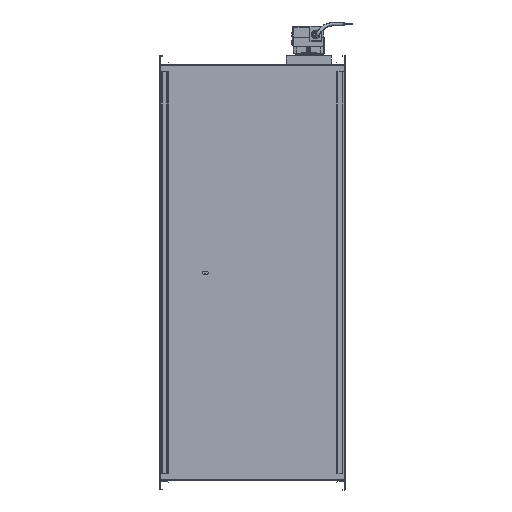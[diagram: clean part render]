
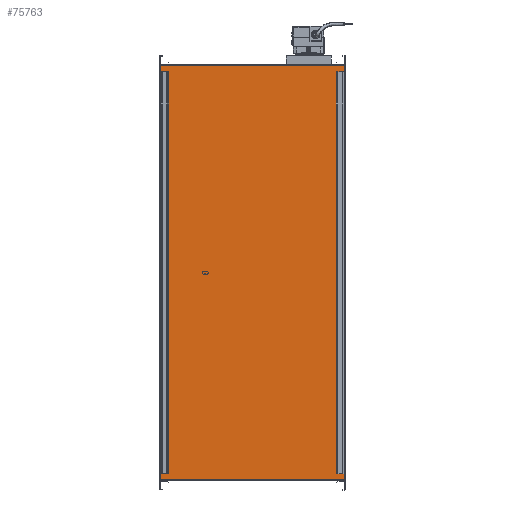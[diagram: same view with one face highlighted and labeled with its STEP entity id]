
A CAD part, front view. The second image highlights one B-rep face of the part: STEP entity #75763.
In plain terms, the highlighted planar face has unit normal (0, -1, 0).
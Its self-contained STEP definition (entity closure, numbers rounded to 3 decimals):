
#2004 = ORIENTED_EDGE ( 'NONE', *, *, #20152, .T. ) ;
#5402 = LINE ( 'NONE', #34486, #45894 ) ;
#12666 = LINE ( 'NONE', #50037, #81914 ) ;
#13563 = CARTESIAN_POINT ( 'NONE',  ( -244.423, -385.848, 652. ) ) ;
#17084 = CARTESIAN_POINT ( 'NONE',  ( 155.577, -385.848, 652. ) ) ;
#20152 = EDGE_CURVE ( 'NONE', #63911, #91981, #5402, .T. ) ;
#21175 = CARTESIAN_POINT ( 'NONE',  ( -244.423, -385.848, 1548. ) ) ;
#23679 = ORIENTED_EDGE ( 'NONE', *, *, #70293, .F. ) ;
#25295 = EDGE_LOOP ( 'NONE', ( #23679, #44970, #2004, #65314 ) ) ;
#26217 = PLANE ( 'NONE',  #55954 ) ;
#27628 = LINE ( 'NONE', #13563, #75513 ) ;
#28110 = CARTESIAN_POINT ( 'NONE',  ( -244.423, -385.848, 1548. ) ) ;
#32059 = CARTESIAN_POINT ( 'NONE',  ( -244.423, -385.848, 652. ) ) ;
#34348 = DIRECTION ( 'NONE',  ( 1., 0., 0. ) ) ;
#34486 = CARTESIAN_POINT ( 'NONE',  ( -244.423, -385.848, 652. ) ) ;
#35899 = DIRECTION ( 'NONE',  ( 1., 0., 0. ) ) ;
#36448 = EDGE_CURVE ( 'NONE', #91981, #85759, #27628, .T. ) ;
#39004 = CARTESIAN_POINT ( 'NONE',  ( -244.423, -385.848, 652. ) ) ;
#40352 = DIRECTION ( 'NONE',  ( 0., -1., 0. ) ) ;
#44970 = ORIENTED_EDGE ( 'NONE', *, *, #51732, .F. ) ;
#45894 = VECTOR ( 'NONE', #79562, 1000. ) ;
#50037 = CARTESIAN_POINT ( 'NONE',  ( 155.577, -385.848, 652. ) ) ;
#51732 = EDGE_CURVE ( 'NONE', #63911, #85127, #92997, .T. ) ;
#55954 = AXIS2_PLACEMENT_3D ( 'NONE', #32059, #40352, #92173 ) ;
#63116 = FACE_OUTER_BOUND ( 'NONE', #25295, .T. ) ;
#63911 = VERTEX_POINT ( 'NONE', #28110 ) ;
#65314 = ORIENTED_EDGE ( 'NONE', *, *, #36448, .T. ) ;
#66880 = VECTOR ( 'NONE', #34348, 1000. ) ;
#70293 = EDGE_CURVE ( 'NONE', #85127, #85759, #12666, .T. ) ;
#75513 = VECTOR ( 'NONE', #35899, 1000. ) ;
#75763 = ADVANCED_FACE ( 'NONE', ( #63116 ), #26217, .T. ) ;
#79562 = DIRECTION ( 'NONE',  ( 0., 0., -1. ) ) ;
#81914 = VECTOR ( 'NONE', #93640, 1000. ) ;
#84711 = CARTESIAN_POINT ( 'NONE',  ( 155.577, -385.848, 1548. ) ) ;
#85127 = VERTEX_POINT ( 'NONE', #84711 ) ;
#85759 = VERTEX_POINT ( 'NONE', #17084 ) ;
#91981 = VERTEX_POINT ( 'NONE', #39004 ) ;
#92173 = DIRECTION ( 'NONE',  ( 0., 0., -1. ) ) ;
#92997 = LINE ( 'NONE', #21175, #66880 ) ;
#93640 = DIRECTION ( 'NONE',  ( 0., 0., -1. ) ) ;
